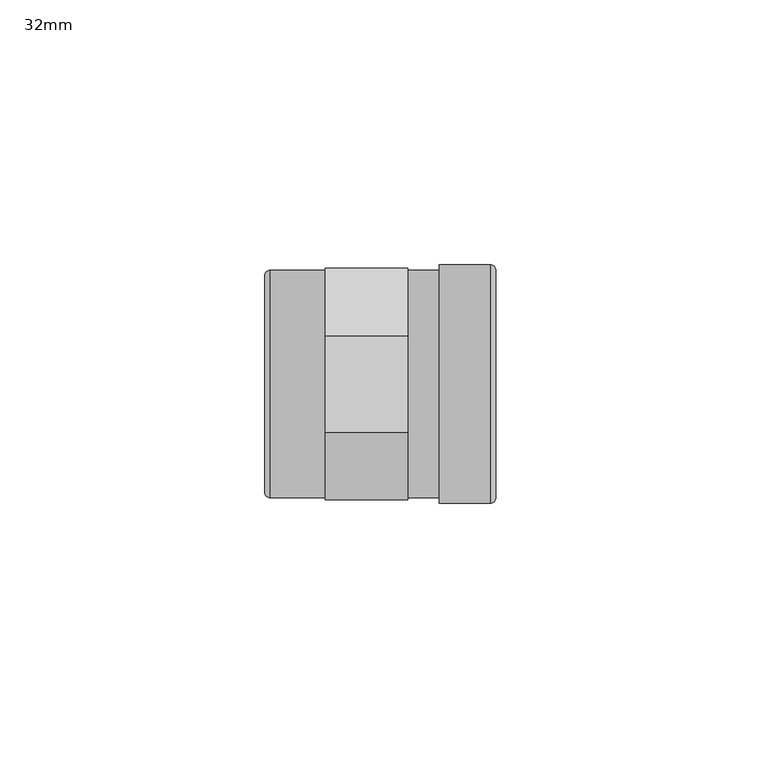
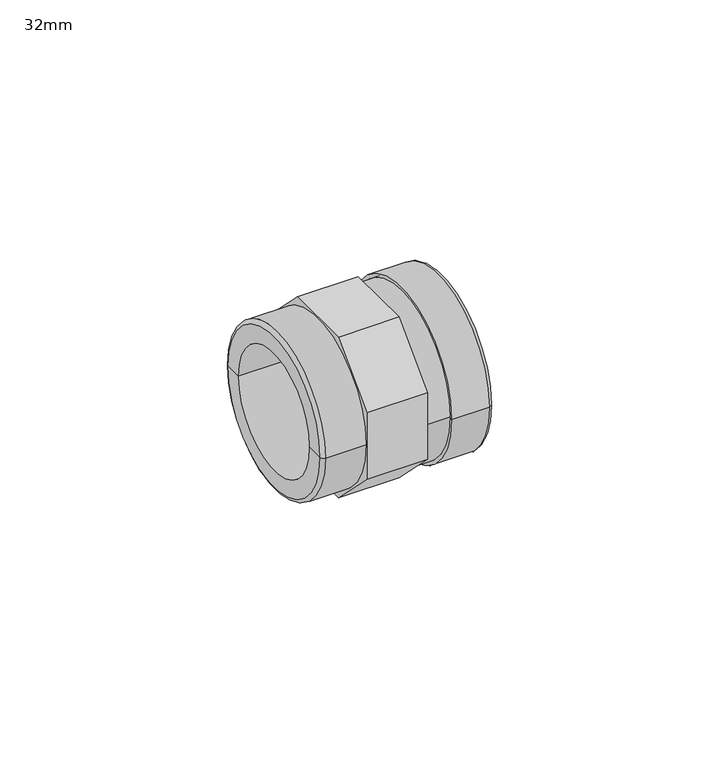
"""IFC4 building model written with IfcOpenShell, lengths in millimetres: pipe fitting geometry, Durapipe_PipeFitting_PVC_PlainThreadedSockets : 32mm."""

import ifcopenshell
import ifcopenshell.guid

model = None  # the IFC model being written
_history = None  # IfcOwnerHistory: only IFC2X3 demands one
_inside = {}  # id of a spatial element -> (the spatial element, [elements in it])
_under = {}  # id of a project, library or spatial element -> (it, [spatial elements below it])
_declared = {}  # id of a project -> (the project, [libraries it declares])
_typed = {}  # id of a type object -> (the type object, [elements of that type])
_made_of = {}  # id of a material, layer set ... -> (it, [elements and type objects made of it])


def new_model(schema):
    """Start an empty IFC model of exactly this schema.

    Asked for "IFC4X3", IfcOpenShell would pick the latest addendum, in which some entities
    have other attributes; the version numbers below select the first issue.
    IFC2X3 requires an IfcOwnerHistory on every rooted entity: one is made here for all.
    """
    global model, _history
    if schema == "IFC4X3":
        model = ifcopenshell.file(schema_version=(4, 3, 0, 0))
    else:
        model = ifcopenshell.file(schema=schema)
    _inside.clear()
    _under.clear()
    _declared.clear()
    _typed.clear()
    _made_of.clear()
    _history = None
    if model.schema == "IFC2X3":
        org = make("IfcOrganization", Name="unknown")
        user = make(
            "IfcPersonAndOrganization",
            ThePerson=make("IfcPerson", FamilyName="unknown"),
            TheOrganization=org,
        )
        app = make(
            "IfcApplication",
            ApplicationDeveloper=org,
            Version="unknown",
            ApplicationFullName="unknown",
            ApplicationIdentifier="unknown",
        )
        _history = make(
            "IfcOwnerHistory",
            OwningUser=user,
            OwningApplication=app,
            ChangeAction="ADDED",
            CreationDate=0,
        )
    return model


def make(cls, **values):
    """One entity of the class cls with the attributes given. An attribute that is None is left unset."""
    return model.create_entity(
        cls, **{name: value for name, value in values.items() if value is not None}
    )


def rooted(cls, **values):
    """An entity with a GlobalId (a new one), such as an element, a storey or a relation."""
    return make(cls, GlobalId=ifcopenshell.guid.new(), OwnerHistory=_history, **values)


def si_unit(unit_type, name, prefix=None):
    """IfcSIUnit, for example si_unit("LENGTHUNIT", "METRE", prefix="MILLI")."""
    return make("IfcSIUnit", UnitType=unit_type, Prefix=prefix, Name=name)


def assignment(units):
    """IfcUnitAssignment: the units of a project."""
    return None if units is None else make("IfcUnitAssignment", Units=units)


def point(xyz):
    """IfcCartesianPoint."""
    return None if xyz is None else make("IfcCartesianPoint", Coordinates=xyz)


def direction(xyz):
    """IfcDirection."""
    return None if xyz is None else make("IfcDirection", DirectionRatios=xyz)


def frame(location, z_axis=None, x_axis=None):
    """IfcAxis2Placement3D, a coordinate frame: its origin and axes. An axis left out is left unset."""
    return make(
        "IfcAxis2Placement3D",
        Location=point(location),
        Axis=direction(z_axis),
        RefDirection=direction(x_axis),
    )


def frame_2d(location, x_axis=None):
    """IfcAxis2Placement2D, a coordinate frame in the plane: its origin and x axis."""
    return make(
        "IfcAxis2Placement2D", Location=point(location), RefDirection=direction(x_axis)
    )


def origin():
    """The frame at (0, 0, 0) with its axes left unset."""
    return frame((0.0, 0.0, 0.0))


def origin_2d():
    """The frame at (0, 0) in the plane with its x axis left unset."""
    return frame_2d((0.0, 0.0))


def place(relative_to, where):
    """IfcLocalPlacement: puts the frame where relative to a parent placement (None: the world)."""
    return make(
        "IfcLocalPlacement", PlacementRelTo=relative_to, RelativePlacement=where
    )


def context(
    kind, dimensions, precision=None, world=None, true_north=None, identifier=None
):
    """IfcGeometricRepresentationContext, for example the 3D "Model" context."""
    return make(
        "IfcGeometricRepresentationContext",
        ContextIdentifier=identifier,
        ContextType=kind,
        CoordinateSpaceDimension=dimensions,
        Precision=precision,
        WorldCoordinateSystem=world,
        TrueNorth=true_north,
    )


def project(units=None, contexts=None):
    """IfcProject with its units and contexts."""
    return rooted(
        "IfcProject",
        Name="project",
        RepresentationContexts=contexts,
        UnitsInContext=assignment(units),
    )


def spatial(cls, under=None, at=None, **own):
    """A site, building, storey or space (cls), placed at a placement, below another one or the project."""
    s = rooted(cls, ObjectPlacement=at, **own)
    if under is not None:
        _under.setdefault(under.id(), (under, []))[1].append(s)
    return s


def polyline(points):
    """IfcPolyline through the points."""
    return make("IfcPolyline", Points=[point(p) for p in points])


def circle_curve(where, radius):
    """IfcCircle in the frame where."""
    return make("IfcCircle", Position=where, Radius=radius)


def ellipse_curve(where, semi_axis1, semi_axis2):
    """IfcEllipse in the frame where."""
    return make(
        "IfcEllipse", Position=where, SemiAxis1=semi_axis1, SemiAxis2=semi_axis2
    )


def trimmed(basis, trim1, trim2, sense, master):
    """IfcTrimmedCurve: the piece of a basis curve between two trims."""
    return make(
        "IfcTrimmedCurve",
        BasisCurve=basis,
        Trim1=trim1,
        Trim2=trim2,
        SenseAgreement=sense,
        MasterRepresentation=master,
    )


def segment(curve, same_sense, transition):
    """IfcCompositeCurveSegment."""
    return make(
        "IfcCompositeCurveSegment",
        Transition=transition,
        SameSense=same_sense,
        ParentCurve=curve,
    )


def composite_curve(segments, self_intersect=None):
    """IfcCompositeCurve: segments joined end to end."""
    return make("IfcCompositeCurve", Segments=segments, SelfIntersect=self_intersect)


def outline(outer, holes=None, kind="AREA"):
    """IfcArbitraryClosedProfileDef: a profile drawn as a closed curve; with holes, ...WithVoids."""
    if holes is None:
        return make("IfcArbitraryClosedProfileDef", ProfileType=kind, OuterCurve=outer)
    return make(
        "IfcArbitraryProfileDefWithVoids",
        ProfileType=kind,
        OuterCurve=outer,
        InnerCurves=holes,
    )


def extrude(swept, where, along, depth):
    """IfcExtrudedAreaSolid: the profile swept, set in the frame where, extruded along a direction by depth."""
    return make(
        "IfcExtrudedAreaSolid",
        SweptArea=swept,
        Position=where,
        ExtrudedDirection=direction(along),
        Depth=depth,
    )


def shape(context_of_items, identifier, shape_type, items):
    """IfcShapeRepresentation: the items that make up one representation, for example the "Body"."""
    return make(
        "IfcShapeRepresentation",
        ContextOfItems=context_of_items,
        RepresentationIdentifier=identifier,
        RepresentationType=shape_type,
        Items=items,
    )


def source(mapping_origin, context_of_items, identifier, shape_type, items):
    """IfcRepresentationMap: a shape defined once, which mapped items show again and again."""
    return make(
        "IfcRepresentationMap",
        MappingOrigin=mapping_origin,
        MappedRepresentation=shape(context_of_items, identifier, shape_type, items),
    )


def transform(
    local_origin,
    x_axis=None,
    y_axis=None,
    z_axis=None,
    scale=None,
    scale2=None,
    scale3=None,
    uniform=True,
):
    """IfcCartesianTransformationOperator3D, or its non-uniform kind. x_axis, y_axis, z_axis: its Axis1, 2, 3."""
    if uniform:
        return make(
            "IfcCartesianTransformationOperator3D",
            Axis1=direction(x_axis),
            Axis2=direction(y_axis),
            LocalOrigin=point(local_origin),
            Scale=scale,
            Axis3=direction(z_axis),
        )
    return make(
        "IfcCartesianTransformationOperator3DnonUniform",
        Axis1=direction(x_axis),
        Axis2=direction(y_axis),
        LocalOrigin=point(local_origin),
        Scale=scale,
        Axis3=direction(z_axis),
        Scale2=scale2,
        Scale3=scale3,
    )


def mapped(mapping_source, mapping_target):
    """IfcMappedItem: shows the shape of a source again, moved by a transform."""
    return make(
        "IfcMappedItem", MappingSource=mapping_source, MappingTarget=mapping_target
    )


def made_of(thing, what):
    """Note that an element or type object is made of a material, layer set ...; save() writes the relation."""
    if what is not None:
        _made_of.setdefault(what.id(), (what, []))[1].append(thing)
    return thing


def element(
    cls,
    number,
    at=None,
    inside=None,
    cuts=None,
    type_object=None,
    material=None,
    context=None,
    identifier="Body",
    shape_type=None,
    held_by="IfcProductDefinitionShape",
    body=None,
    shapes=None,
    **own,
):
    """One element of the class cls, such as IfcWall. Its Tag is "e" and its number.

    at: its placement. inside: the storey or other place that contains it. cuts: it is an
    opening in that element (IfcRelVoidsElement). A single representation is given by context,
    identifier, shape_type and body (its items); several are given by shapes. held_by: the class
    of the entity that holds the representations. save() writes the other relations.
    """
    e = rooted(cls, Tag="e%d" % number, ObjectPlacement=at, **own)
    if body is not None:
        shapes = [shape(context, identifier, shape_type, body)]
    if shapes is not None:
        e.Representation = make(held_by, Representations=shapes)
    if inside is not None:
        _inside.setdefault(inside.id(), (inside, []))[1].append(e)
    if cuts is not None:
        rooted(
            "IfcRelVoidsElement", RelatingBuildingElement=cuts, RelatedOpeningElement=e
        )
    if type_object is not None:
        _typed.setdefault(type_object.id(), (type_object, []))[1].append(e)
    return made_of(e, material)


def aggregate(whole, parts):
    """IfcRelAggregates: a whole, such as a stair, and the parts it consists of."""
    return rooted("IfcRelAggregates", RelatingObject=whole, RelatedObjects=parts)


def save(model, path):
    """Write the relations noted so far, then the file.

    IfcRelAggregates (storeys below a building ...), IfcRelContainedInSpatialStructure (elements
    in a storey), IfcRelDefinesByType, IfcRelAssociatesMaterial and IfcRelDeclares: one each for
    every whole, place, type object, material and project.
    """
    for whole, parts in _under.values():
        aggregate(whole, parts)
    for where, things in _inside.values():
        rooted(
            "IfcRelContainedInSpatialStructure",
            RelatedElements=things,
            RelatingStructure=where,
        )
    for kind, things in _typed.values():
        rooted("IfcRelDefinesByType", RelatedObjects=things, RelatingType=kind)
    for what, things in _made_of.values():
        rooted("IfcRelAssociatesMaterial", RelatedObjects=things, RelatingMaterial=what)
    for by, libraries in _declared.values():
        rooted("IfcRelDeclares", RelatingContext=by, RelatedDefinitions=libraries)
    model.write(path)


def plane_surface(at):
    """IfcPlane: the flat surface through the origin of the frame at, square to its z axis."""
    return make("IfcPlane", Position=at)


def cylinder_surface(at, radius):
    """IfcCylindricalSurface: all points at the distance radius from the z axis of the frame at."""
    return make("IfcCylindricalSurface", Position=at, Radius=radius)


def revolved_surface(curve, axis_point, axis_direction):
    """IfcSurfaceOfRevolution: the curve turned about the line through axis_point along axis_direction."""
    return make(
        "IfcSurfaceOfRevolution",
        SweptCurve=make("IfcArbitraryOpenProfileDef", ProfileType="CURVE", Curve=curve),
        AxisPosition=make("IfcAxis1Placement", Location=point(axis_point), Axis=direction(axis_direction)),
    )


def advanced_brep(points, edges, surfaces, faces):
    """IfcAdvancedBrep: a solid bounded by faces that lie on surfaces and meet in shared edges.

    An edge is (start, end): straight between two places in points (the first is 0);
    or (start, end, curve); or (start, end, curve, False) where it runs against its curve.
    A face is (place in surfaces, loops), or (place, loops, False) where it looks against
    its surface's normal. A loop lists edges by number (the first is 1), with a minus sign
    where the edge is run from its end to its start. The first loop is the outer one.
    """
    corners = [point(p) for p in points]
    vertices = [make("IfcVertexPoint", VertexGeometry=c) for c in corners]
    made = []
    for start, end, *more in edges:
        made.append(
            make(
                "IfcEdgeCurve",
                EdgeStart=vertices[start],
                EdgeEnd=vertices[end],
                EdgeGeometry=more[0] if more else make("IfcPolyline", Points=[corners[start], corners[end]]),
                SameSense=more[1] if len(more) > 1 else True,
            )
        )
    hull = []
    for where, loops, *sense in faces:
        bounds = []
        for j, loop in enumerate(loops):
            ring = [make("IfcOrientedEdge", EdgeElement=made[abs(k) - 1], Orientation=k > 0) for k in loop]
            bounds.append(
                make(
                    "IfcFaceOuterBound" if j == 0 else "IfcFaceBound",
                    Bound=make("IfcEdgeLoop", EdgeList=ring),
                    Orientation=True,
                )
            )
        hull.append(make("IfcAdvancedFace", Bounds=bounds, FaceSurface=surfaces[where], SameSense=sense[0] if sense else True))
    return make("IfcAdvancedBrep", Outer=make("IfcClosedShell", CfsFaces=hull))


def pipe_fitting_32mm_a54fa4ee(model_context):
    return source(origin(), model_context, "Body", "SolidModel", [
        extrude(outline(polyline([(-21.9, 9.071277), (-9.071277, 21.9), (9.071277, 21.9), (21.9, 9.071277), (21.9, -9.071277), (9.071277, -21.9), (-9.071277, -21.9), (-21.9, -9.071277), (-21.9, 9.071277)]), holes=[composite_curve([segment(trimmed(circle_curve(origin_2d(), 21.5), [point((-21.5, 0.0))], [point((21.5, 0.0))], True, "CARTESIAN"), True, "CONTINUOUS"), segment(trimmed(circle_curve(origin_2d(), 21.5), [point((21.5, 0.0))], [point((-21.5, 0.0))], True, "CARTESIAN"), True, "CONTINUOUS")], self_intersect=False)]), frame((-12.15, 0.0, 0.0), z_axis=(1.0, 0.0, 0.0), x_axis=(0.0, 1.0, 0.0)), (0.0, 0.0, 1.0), 15.6),
        advanced_brep(
        [(17.05, -21.5, 0.0), (17.05, 21.5, 0.0), (17.05, 16.0, 0.0), (17.05, -16.0, 0.0), (-22.55, -21.5, 0.0), (-22.55, 21.5, 0.0), (-23.55, -16.0, 0.0), (-23.55, 16.0, 0.0), (-23.55, 20.5, 0.0), (-23.55, -20.5, 0.0), (-1.25, -16.0, 0.0), (-1.25, 16.0, 0.0), (-1.25, -14.5, 0.0), (-1.25, 14.5, 0.0), (1.25, -14.5, 0.0), (1.25, 14.5, 0.0), (1.25, -16.0, 0.0), (1.25, 16.0, 0.0)],
        [
            (0, 1, circle_curve(frame((17.05, 0.0, 0.0), z_axis=(1.0, 0.0, 0.0), x_axis=(0.0, 1.0, 0.0)), 21.5)),
            (1, 2),
            (2, 3, circle_curve(frame((17.05, 0.0, 0.0), z_axis=(-1.0, 0.0, 0.0), x_axis=(0.0, 1.0, 0.0)), 16.0)),
            (3, 0),
            (1, 0, circle_curve(frame((17.05, 0.0, 0.0), z_axis=(1.0, 0.0, 0.0), x_axis=(0.0, 1.0, 0.0)), 21.5)),
            (3, 2, circle_curve(frame((17.05, 0.0, 0.0), z_axis=(-1.0, 0.0, 0.0), x_axis=(0.0, 1.0, 0.0)), 16.0)),
            (4, 5, circle_curve(frame((-22.55, 0.0, 0.0), z_axis=(1.0, 0.0, 0.0), x_axis=(0.0, 1.0, 0.0)), 21.5)),
            (5, 1),
            (0, 4),
            (5, 4, circle_curve(frame((-22.55, 0.0, 0.0), z_axis=(1.0, 0.0, 0.0), x_axis=(0.0, 1.0, 0.0)), 21.5)),
            (6, 7, circle_curve(frame((-23.55, 0.0, 0.0), z_axis=(1.0, 0.0, 0.0), x_axis=(0.0, 1.0, 0.0)), 16.0)),
            (7, 8),
            (8, 9, circle_curve(frame((-23.55, 0.0, 0.0), z_axis=(-1.0, 0.0, 0.0), x_axis=(0.0, 1.0, 0.0)), 20.5)),
            (9, 6),
            (7, 6, circle_curve(frame((-23.55, 0.0, 0.0), z_axis=(1.0, 0.0, 0.0), x_axis=(0.0, 1.0, 0.0)), 16.0)),
            (9, 8, circle_curve(frame((-23.55, 0.0, 0.0), z_axis=(-1.0, 0.0, 0.0), x_axis=(0.0, 1.0, 0.0)), 20.5)),
            (10, 11, circle_curve(frame((-1.25, 0.0, 0.0), z_axis=(1.0, 0.0, 0.0), x_axis=(0.0, 1.0, 0.0)), 16.0)),
            (11, 7),
            (6, 10),
            (11, 10, circle_curve(frame((-1.25, 0.0, 0.0), z_axis=(1.0, 0.0, 0.0), x_axis=(0.0, 1.0, 0.0)), 16.0)),
            (12, 13, circle_curve(frame((-1.25, 0.0, 0.0), z_axis=(1.0, 0.0, 0.0), x_axis=(0.0, 1.0, 0.0)), 14.5)),
            (13, 11),
            (10, 12),
            (13, 12, circle_curve(frame((-1.25, 0.0, 0.0), z_axis=(1.0, 0.0, 0.0), x_axis=(0.0, 1.0, 0.0)), 14.5)),
            (14, 15, circle_curve(frame((1.25, 0.0, 0.0), z_axis=(1.0, 0.0, 0.0), x_axis=(0.0, 1.0, 0.0)), 14.5)),
            (15, 13),
            (12, 14),
            (15, 14, circle_curve(frame((1.25, 0.0, 0.0), z_axis=(1.0, 0.0, 0.0), x_axis=(0.0, 1.0, 0.0)), 14.5)),
            (16, 17, circle_curve(frame((1.25, 0.0, 0.0), z_axis=(1.0, 0.0, 0.0), x_axis=(0.0, 1.0, 0.0)), 16.0)),
            (17, 15),
            (14, 16),
            (17, 16, circle_curve(frame((1.25, 0.0, 0.0), z_axis=(1.0, 0.0, 0.0), x_axis=(0.0, 1.0, 0.0)), 16.0)),
            (2, 17),
            (16, 3),
            (8, 5, circle_curve(frame((-22.55, 20.5, 0.0), z_axis=(0.0, 0.0, -1.0), x_axis=(1.0, 0.0, 0.0)), 1.0)),
            (4, 9, circle_curve(frame((-22.55, -20.5, 0.0), z_axis=(0.0, 0.0, -1.0), x_axis=(1.0, 0.0, 0.0)), 1.0)),
        ],
        [
            plane_surface(frame((17.05, 0.0, 0.0), z_axis=(1.0, 0.0, 0.0), x_axis=(0.0, 1.0, 0.0))),
            cylinder_surface(frame((-39.1346764, 0.0, 0.0), z_axis=(-1.0, 0.0, 0.0), x_axis=(0.0, 1.0, 0.0)), 21.5),
            plane_surface(frame((-23.55, 0.0, 0.0), z_axis=(-1.0, 0.0, 0.0), x_axis=(0.0, 1.0, 0.0))),
            revolved_surface(polyline([(-23.55, 16.0, 0.0), (-1.25, 16.0, 0.0)]), (-39.1346764, 0.0, 0.0), (-1.0, 0.0, 0.0)),
            plane_surface(frame((-1.25, 0.0, 0.0), z_axis=(-1.0, 0.0, 0.0), x_axis=(0.0, 1.0, 0.0))),
            revolved_surface(polyline([(-1.25, 14.5, 0.0), (1.25, 14.5, 0.0)]), (-39.1346764, 0.0, 0.0), (-1.0, 0.0, 0.0)),
            plane_surface(frame((1.25, 0.0, 0.0), z_axis=(1.0, 0.0, 0.0), x_axis=(0.0, 1.0, 0.0))),
            revolved_surface(polyline([(1.25, 16.0, 0.0), (17.050000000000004, 16.0, 0.0)]), (-39.1346764, 0.0, 0.0), (-1.0, 0.0, 0.0)),
            revolved_surface(trimmed(ellipse_curve(frame((-22.55, 20.5, 0.0), z_axis=(0.0, 0.0, 1.0), x_axis=(1.0, 0.0, 0.0)), 1.0, 1.0), [point((-22.55, 21.5, 0.0))], [point((-23.55, 20.5, 0.0))], True, "CARTESIAN"), (-39.1346764, 0.0, 0.0), (-1.0, 0.0, 0.0)),
        ],
        [
            (0, [[1, 2, 3, 4]]),
            (0, [[5, -4, 6, -2]]),
            (1, [[7, 8, -1, 9]]),
            (1, [[10, -9, -5, -8]]),
            (2, [[11, 12, 13, 14]]),
            (2, [[15, -14, 16, -12]]),
            (3, [[17, 18, -11, 19]]),
            (3, [[20, -19, -15, -18]]),
            (4, [[21, 22, -17, 23]]),
            (4, [[24, -23, -20, -22]]),
            (5, [[25, 26, -21, 27]]),
            (5, [[28, -27, -24, -26]]),
            (6, [[29, 30, -25, 31]]),
            (6, [[32, -31, -28, -30]]),
            (7, [[-3, 33, -29, 34]]),
            (7, [[-6, -34, -32, -33]]),
            (8, [[-13, 35, -7, 36]]),
            (8, [[-16, -36, -10, -35]]),
        ],
    ),
        advanced_brep(
        [(9.35, -21.5, 0.0), (9.35, 21.5, 0.0), (9.35, 22.5, 0.0), (9.35, -22.5, 0.0), (17.05, -21.5, 0.0), (17.05, 21.5, 0.0), (17.05, -18.0, 0.0), (17.05, 18.0, 0.0), (20.05, -18.0, 0.0), (20.05, 18.0, 0.0), (20.05, -21.5, 0.0), (20.05, 21.5, 0.0), (19.05, 22.5, 0.0), (19.05, -22.5, 0.0)],
        [
            (0, 1, circle_curve(frame((9.35, 0.0, 0.0), z_axis=(1.0, 0.0, 0.0), x_axis=(0.0, 1.0, 0.0)), 21.5)),
            (1, 2),
            (2, 3, circle_curve(frame((9.35, 0.0, 0.0), z_axis=(-1.0, 0.0, 0.0), x_axis=(0.0, 1.0, 0.0)), 22.5)),
            (3, 0),
            (1, 0, circle_curve(frame((9.35, 0.0, 0.0), z_axis=(1.0, 0.0, 0.0), x_axis=(0.0, 1.0, 0.0)), 21.5)),
            (3, 2, circle_curve(frame((9.35, 0.0, 0.0), z_axis=(-1.0, 0.0, 0.0), x_axis=(0.0, 1.0, 0.0)), 22.5)),
            (4, 5, circle_curve(frame((17.05, 0.0, 0.0), z_axis=(1.0, 0.0, 0.0), x_axis=(0.0, 1.0, 0.0)), 21.5)),
            (5, 1),
            (0, 4),
            (5, 4, circle_curve(frame((17.05, 0.0, 0.0), z_axis=(1.0, 0.0, 0.0), x_axis=(0.0, 1.0, 0.0)), 21.5)),
            (6, 7, circle_curve(frame((17.05, 0.0, 0.0), z_axis=(1.0, 0.0, 0.0), x_axis=(0.0, 1.0, 0.0)), 18.0)),
            (7, 5),
            (4, 6),
            (7, 6, circle_curve(frame((17.05, 0.0, 0.0), z_axis=(1.0, 0.0, 0.0), x_axis=(0.0, 1.0, 0.0)), 18.0)),
            (8, 9, circle_curve(frame((20.05, 0.0, 0.0), z_axis=(1.0, 0.0, 0.0), x_axis=(0.0, 1.0, 0.0)), 18.0)),
            (9, 7),
            (6, 8),
            (9, 8, circle_curve(frame((20.05, 0.0, 0.0), z_axis=(1.0, 0.0, 0.0), x_axis=(0.0, 1.0, 0.0)), 18.0)),
            (10, 11, circle_curve(frame((20.05, 0.0, 0.0), z_axis=(1.0, 0.0, 0.0), x_axis=(0.0, 1.0, 0.0)), 21.5)),
            (11, 9),
            (8, 10),
            (11, 10, circle_curve(frame((20.05, 0.0, 0.0), z_axis=(1.0, 0.0, 0.0), x_axis=(0.0, 1.0, 0.0)), 21.5)),
            (2, 12),
            (12, 13, circle_curve(frame((19.05, 0.0, 0.0), z_axis=(-1.0, 0.0, 0.0), x_axis=(0.0, 1.0, 0.0)), 22.5)),
            (13, 3),
            (13, 12, circle_curve(frame((19.05, 0.0, 0.0), z_axis=(-1.0, 0.0, 0.0), x_axis=(0.0, 1.0, 0.0)), 22.5)),
            (12, 11, circle_curve(frame((19.05, 21.5, 0.0), z_axis=(0.0, 0.0, -1.0), x_axis=(1.0, 0.0, 0.0)), 1.0)),
            (10, 13, circle_curve(frame((19.05, -21.5, 0.0), z_axis=(0.0, 0.0, -1.0), x_axis=(1.0, 0.0, 0.0)), 1.0)),
        ],
        [
            plane_surface(frame((9.35, 0.0, 0.0), z_axis=(-1.0, 0.0, 0.0), x_axis=(0.0, 1.0, 0.0))),
            revolved_surface(polyline([(9.350000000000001, 21.5, 0.0), (17.05, 21.5, 0.0)]), (25.9537641, 0.0, 0.0), (-1.0, 0.0, 0.0)),
            plane_surface(frame((17.05, 0.0, 0.0), z_axis=(-1.0, 0.0, 0.0), x_axis=(0.0, 1.0, 0.0))),
            revolved_surface(polyline([(17.05, 18.0, 0.0), (20.05, 18.0, 0.0)]), (25.9537641, 0.0, 0.0), (-1.0, 0.0, 0.0)),
            plane_surface(frame((20.05, 0.0, 0.0), z_axis=(1.0, 0.0, 0.0), x_axis=(0.0, 1.0, 0.0))),
            cylinder_surface(frame((25.9537641, 0.0, 0.0), z_axis=(-1.0, 0.0, 0.0), x_axis=(0.0, 1.0, 0.0)), 22.5),
            revolved_surface(trimmed(ellipse_curve(frame((19.05, 21.5, 0.0), z_axis=(0.0, 0.0, 1.0), x_axis=(1.0, 0.0, 0.0)), 1.0, 1.0), [point((20.05, 21.5, 0.0))], [point((19.05, 22.5, 0.0))], True, "CARTESIAN"), (25.9537641, 0.0, 0.0), (-1.0, 0.0, 0.0)),
        ],
        [
            (0, [[1, 2, 3, 4]]),
            (0, [[5, -4, 6, -2]]),
            (1, [[7, 8, -1, 9]]),
            (1, [[10, -9, -5, -8]]),
            (2, [[11, 12, -7, 13]]),
            (2, [[14, -13, -10, -12]]),
            (3, [[15, 16, -11, 17]]),
            (3, [[18, -17, -14, -16]]),
            (4, [[19, 20, -15, 21]]),
            (4, [[22, -21, -18, -20]]),
            (5, [[-3, 23, 24, 25]]),
            (5, [[-6, -25, 26, -23]]),
            (6, [[-24, 27, -19, 28]]),
            (6, [[-26, -28, -22, -27]]),
        ],
    ),
    ])


if __name__ == "__main__":
    model = new_model("IFC4")
    model_context = context("Model", 3, world=origin())
    ifc_project = project(units=[si_unit("LENGTHUNIT", "METRE", prefix="MILLI")], contexts=[model_context])
    site = spatial("IfcSite", under=ifc_project)
    building = spatial("IfcBuilding", under=site)
    placement = place(None, origin())
    pipe_fitting_32mm_shape = pipe_fitting_32mm_a54fa4ee(model_context)
    element("IfcPipeFitting", 1, ObjectType="Durapipe_PipeFitting_PVC_PlainThreadedSockets : 32mm", at=placement, inside=building, context=model_context, shape_type="MappedRepresentation", body=[
        mapped(pipe_fitting_32mm_shape, transform((0.0, 0.0, 0.0), x_axis=(1.0, 0.0, 0.0), y_axis=(0.0, 1.0, 0.0), z_axis=(0.0, 0.0, 1.0))),
    ])
    save(model, "model.ifc")
